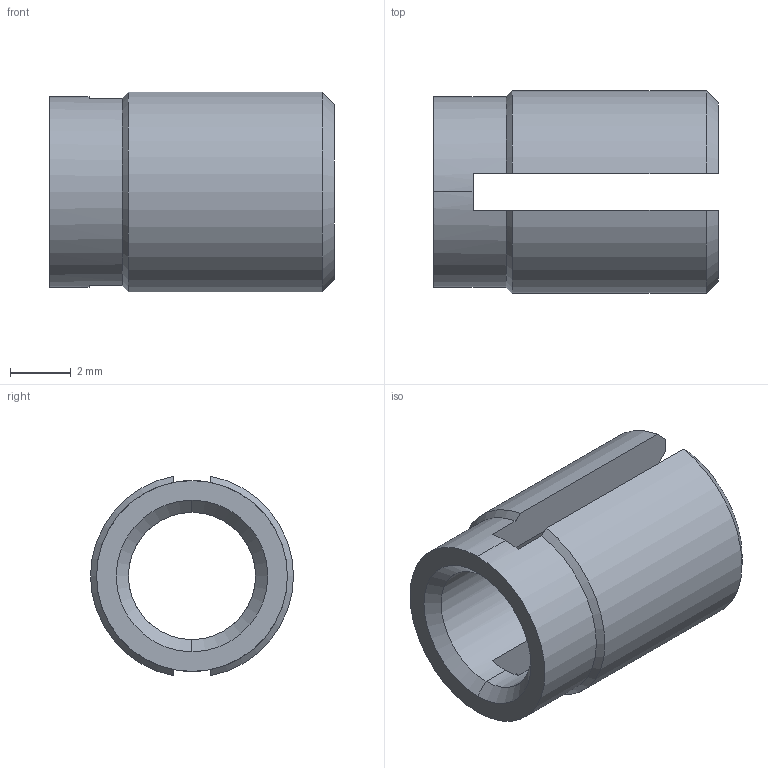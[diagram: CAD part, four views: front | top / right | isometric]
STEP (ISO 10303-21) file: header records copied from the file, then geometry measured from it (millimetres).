
FILE_DESCRIPTION (( 'STEP AP203' ), '1' );
FILE_NAME ('FSUK-EXP-M05-S.STEP', '2021-04-15T13:49:34', ( '' ), ( '' ), 'SwSTEP 2.0', 'SolidWorks 2021', '' );
FILE_SCHEMA (( 'CONFIG_CONTROL_DESIGN' ));
Length unit declared in the file: millimetre
Products named in the file (1): FSUK-EXP-M05-S
Bounding box: 9.4 x 6.7 x 6.59 mm (x, y, z)
Volume: 163.6 mm3; surface area: 349.4 mm2
Topology: 1 solids, 1 shells, 23 faces, 64 edges, 42 vertices
Faces by surface type: plane 9, cone 8, cylinder 6
Entity records: 841 total; most frequent: CARTESIAN_POINT 166, ORIENTED_EDGE 128, DIRECTION 126, EDGE_CURVE 64, AXIS2_PLACEMENT_3D 50, VERTEX_POINT 42, LINE 26, CIRCLE 26
